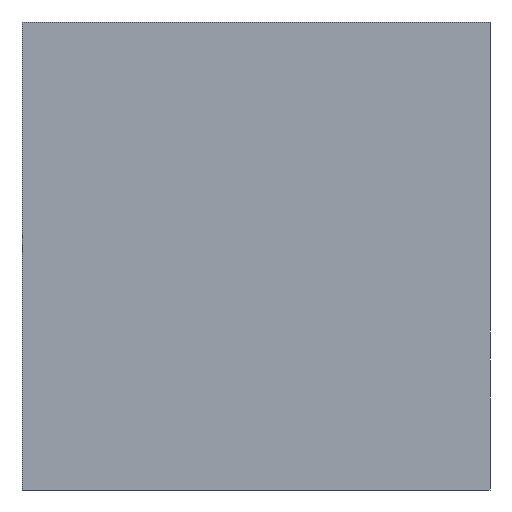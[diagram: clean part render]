
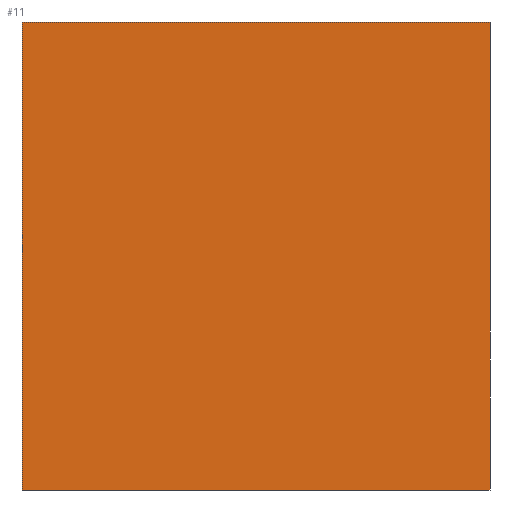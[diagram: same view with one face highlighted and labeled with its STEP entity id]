
A CAD part, left-side view. The second image highlights one B-rep face of the part: STEP entity #11.
In plain terms, the highlighted planar face has unit normal (-1, 0, 0).
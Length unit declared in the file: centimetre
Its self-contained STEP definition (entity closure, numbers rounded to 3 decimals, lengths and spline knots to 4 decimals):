
#11 = ADVANCED_FACE ( 'NONE', ( #360 ), #12, .F. ) ;
#12 = PLANE ( 'NONE',  #217 ) ;
#29 = CARTESIAN_POINT ( 'NONE',  ( 0., 1000., 1000. ) ) ;
#42 = EDGE_CURVE ( 'NONE', #98, #118, #346, .T. ) ;
#53 = VECTOR ( 'NONE', #135, 100. ) ;
#64 = ORIENTED_EDGE ( 'NONE', *, *, #192, .T. ) ;
#67 = DIRECTION ( 'NONE',  ( 0., 0., -1. ) ) ;
#89 = CARTESIAN_POINT ( 'NONE',  ( 0., 1000., 0. ) ) ;
#94 = ORIENTED_EDGE ( 'NONE', *, *, #132, .F. ) ;
#98 = VERTEX_POINT ( 'NONE', #108 ) ;
#100 = ORIENTED_EDGE ( 'NONE', *, *, #166, .T. ) ;
#108 = CARTESIAN_POINT ( 'NONE',  ( 0., 1000., 1000. ) ) ;
#111 = CARTESIAN_POINT ( 'NONE',  ( 0., 0., 1000. ) ) ;
#118 = VERTEX_POINT ( 'NONE', #111 ) ;
#123 = CARTESIAN_POINT ( 'NONE',  ( 0., 1000., 1000. ) ) ;
#132 = EDGE_CURVE ( 'NONE', #118, #200, #449, .T. ) ;
#135 = DIRECTION ( 'NONE',  ( 0., 0., -1. ) ) ;
#156 = DIRECTION ( 'NONE',  ( 0., 0., -1. ) ) ;
#164 = VECTOR ( 'NONE', #187, 100. ) ;
#166 = EDGE_CURVE ( 'NONE', #98, #279, #171, .T. ) ;
#171 = LINE ( 'NONE', #29, #53 ) ;
#187 = DIRECTION ( 'NONE',  ( 0., -1., 0. ) ) ;
#192 = EDGE_CURVE ( 'NONE', #279, #200, #242, .T. ) ;
#200 = VERTEX_POINT ( 'NONE', #247 ) ;
#207 = VECTOR ( 'NONE', #414, 100. ) ;
#217 = AXIS2_PLACEMENT_3D ( 'NONE', #123, #252, #156 ) ;
#242 = LINE ( 'NONE', #89, #164 ) ;
#247 = CARTESIAN_POINT ( 'NONE',  ( 0., 0., 0. ) ) ;
#252 = DIRECTION ( 'NONE',  ( 1., 0., 0. ) ) ;
#258 = CARTESIAN_POINT ( 'NONE',  ( 0., 1000., 0. ) ) ;
#279 = VERTEX_POINT ( 'NONE', #258 ) ;
#290 = VECTOR ( 'NONE', #67, 100. ) ;
#307 = CARTESIAN_POINT ( 'NONE',  ( 0., 1000., 1000. ) ) ;
#346 = LINE ( 'NONE', #307, #207 ) ;
#360 = FACE_OUTER_BOUND ( 'NONE', #389, .T. ) ;
#389 = EDGE_LOOP ( 'NONE', ( #64, #94, #461, #100 ) ) ;
#414 = DIRECTION ( 'NONE',  ( 0., -1., 0. ) ) ;
#449 = LINE ( 'NONE', #462, #290 ) ;
#461 = ORIENTED_EDGE ( 'NONE', *, *, #42, .F. ) ;
#462 = CARTESIAN_POINT ( 'NONE',  ( 0., 0., 1000. ) ) ;
